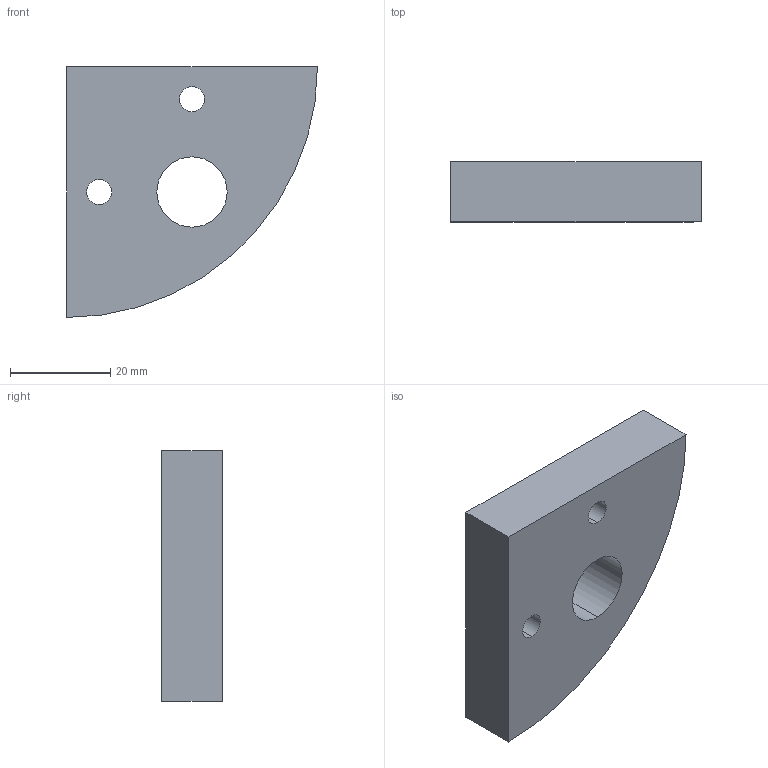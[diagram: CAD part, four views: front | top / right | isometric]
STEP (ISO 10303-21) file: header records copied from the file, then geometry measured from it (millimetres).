
FILE_DESCRIPTION (( 'STEP AP203' ), '1' );
FILE_NAME ('RPF5050.STEP', '2024-02-19T06:44:01', ( '' ), ( '' ), 'SwSTEP 2.0', 'SolidWorks 2022', '' );
FILE_SCHEMA (( 'CONFIG_CONTROL_DESIGN' ));
Length unit declared in the file: millimetre
Products named in the file (1): RPF5050
Bounding box: 50 x 12 x 50 mm (x, y, z)
Volume: 21243.4 mm3; surface area: 6587.8 mm2
Topology: 1 solids, 1 shells, 11 faces, 27 edges, 18 vertices
Faces by surface type: cylinder 7, plane 4
Entity records: 424 total; most frequent: DIRECTION 65, CARTESIAN_POINT 57, ORIENTED_EDGE 54, EDGE_CURVE 27, AXIS2_PLACEMENT_3D 26, VERTEX_POINT 18, EDGE_LOOP 17, CIRCLE 14
